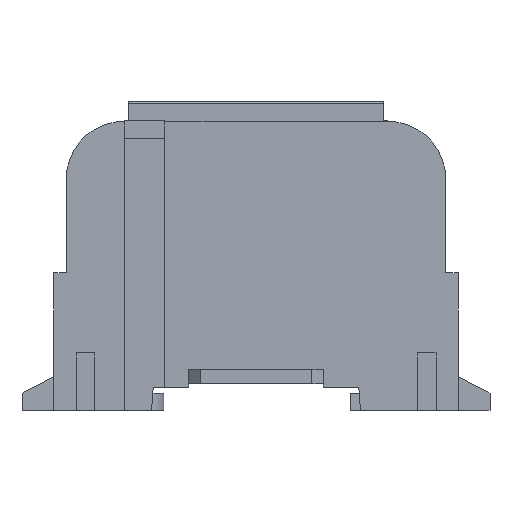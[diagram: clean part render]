
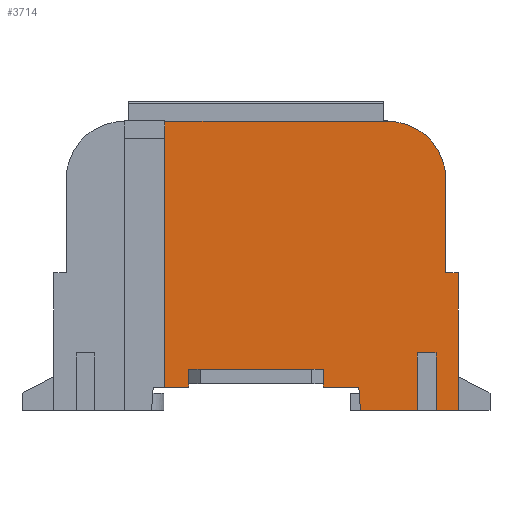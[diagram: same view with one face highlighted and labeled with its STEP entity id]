
A CAD part, front view. The second image highlights one B-rep face of the part: STEP entity #3714.
In plain terms, the highlighted planar face has unit normal (0, -1, 0).
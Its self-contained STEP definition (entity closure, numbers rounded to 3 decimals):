
#69=LINE('',#5300,#527);
#70=LINE('',#5302,#528);
#72=LINE('',#5306,#530);
#73=LINE('',#5308,#531);
#93=LINE('',#5351,#551);
#97=LINE('',#5363,#555);
#101=LINE('',#5370,#559);
#106=LINE('',#5379,#564);
#113=LINE('',#5393,#571);
#154=LINE('',#5493,#612);
#156=LINE('',#5496,#614);
#161=LINE('',#5506,#619);
#163=LINE('',#5515,#621);
#164=LINE('',#5517,#622);
#165=LINE('',#5519,#623);
#166=LINE('',#5521,#624);
#167=LINE('',#5525,#625);
#168=LINE('',#5526,#626);
#527=VECTOR('',#4254,1000.);
#528=VECTOR('',#4257,1000.);
#530=VECTOR('',#4261,1000.);
#531=VECTOR('',#4264,1000.);
#551=VECTOR('',#4294,1000.);
#555=VECTOR('',#4304,1000.);
#559=VECTOR('',#4310,1000.);
#564=VECTOR('',#4319,1000.);
#571=VECTOR('',#4328,1000.);
#612=VECTOR('',#4423,1000.);
#614=VECTOR('',#4427,1000.);
#619=VECTOR('',#4436,1000.);
#621=VECTOR('',#4446,1000.);
#622=VECTOR('',#4447,1000.);
#623=VECTOR('',#4448,1000.);
#624=VECTOR('',#4449,1000.);
#625=VECTOR('',#4452,1000.);
#626=VECTOR('',#4453,1000.);
#990=PLANE('',#3957);
#1366=ORIENTED_EDGE('',*,*,#2236,.T.);
#1367=ORIENTED_EDGE('',*,*,#2334,.T.);
#1368=ORIENTED_EDGE('',*,*,#2338,.F.);
#1369=ORIENTED_EDGE('',*,*,#2339,.F.);
#1370=ORIENTED_EDGE('',*,*,#2340,.T.);
#1371=ORIENTED_EDGE('',*,*,#2341,.T.);
#1372=ORIENTED_EDGE('',*,*,#2342,.T.);
#1373=ORIENTED_EDGE('',*,*,#2343,.F.);
#1374=ORIENTED_EDGE('',*,*,#2256,.T.);
#1375=ORIENTED_EDGE('',*,*,#2261,.F.);
#1376=ORIENTED_EDGE('',*,*,#2265,.F.);
#1377=ORIENTED_EDGE('',*,*,#2235,.F.);
#1378=ORIENTED_EDGE('',*,*,#2233,.F.);
#1379=ORIENTED_EDGE('',*,*,#2232,.F.);
#1380=ORIENTED_EDGE('',*,*,#2270,.F.);
#1381=ORIENTED_EDGE('',*,*,#2277,.F.);
#1382=ORIENTED_EDGE('',*,*,#2327,.F.);
#1383=ORIENTED_EDGE('',*,*,#2344,.F.);
#1384=ORIENTED_EDGE('',*,*,#2329,.T.);
#2232=EDGE_CURVE('',#2725,#2751,#69,.T.);
#2233=EDGE_CURVE('',#2751,#2752,#70,.T.);
#2235=EDGE_CURVE('',#2752,#2726,#72,.T.);
#2236=EDGE_CURVE('',#2753,#2754,#73,.T.);
#2256=EDGE_CURVE('',#2771,#2770,#93,.T.);
#2261=EDGE_CURVE('',#2775,#2770,#97,.T.);
#2265=EDGE_CURVE('',#2726,#2775,#101,.T.);
#2270=EDGE_CURVE('',#2780,#2725,#106,.T.);
#2277=EDGE_CURVE('',#2785,#2780,#113,.T.);
#2327=EDGE_CURVE('',#2817,#2785,#154,.T.);
#2329=EDGE_CURVE('',#2818,#2753,#156,.T.);
#2334=EDGE_CURVE('',#2754,#2821,#161,.T.);
#2338=EDGE_CURVE('',#2824,#2821,#163,.T.);
#2339=EDGE_CURVE('',#2825,#2824,#164,.T.);
#2340=EDGE_CURVE('',#2825,#2826,#165,.T.);
#2341=EDGE_CURVE('',#2826,#2827,#166,.T.);
#2342=EDGE_CURVE('',#2827,#2828,#3083,.F.);
#2343=EDGE_CURVE('',#2771,#2828,#167,.T.);
#2344=EDGE_CURVE('',#2818,#2817,#168,.T.);
#2725=VERTEX_POINT('',#5219);
#2726=VERTEX_POINT('',#5221);
#2751=VERTEX_POINT('',#5299);
#2752=VERTEX_POINT('',#5303);
#2753=VERTEX_POINT('',#5309);
#2754=VERTEX_POINT('',#5310);
#2770=VERTEX_POINT('',#5350);
#2771=VERTEX_POINT('',#5352);
#2775=VERTEX_POINT('',#5362);
#2780=VERTEX_POINT('',#5380);
#2785=VERTEX_POINT('',#5392);
#2817=VERTEX_POINT('',#5492);
#2818=VERTEX_POINT('',#5497);
#2821=VERTEX_POINT('',#5507);
#2824=VERTEX_POINT('',#5516);
#2825=VERTEX_POINT('',#5518);
#2826=VERTEX_POINT('',#5520);
#2827=VERTEX_POINT('',#5522);
#2828=VERTEX_POINT('',#5524);
#3083=CIRCLE('',#3958,10.);
#3189=EDGE_LOOP('',(#1366,#1367,#1368,#1369,#1370,#1371,#1372,#1373,#1374,
#1375,#1376,#1377,#1378,#1379,#1380,#1381,#1382,#1383,#1384));
#3441=FACE_BOUND('',#3189,.T.);
#3714=ADVANCED_FACE('',(#3441),#990,.F.);
#3957=AXIS2_PLACEMENT_3D('',#5514,#4444,#4445);
#3958=AXIS2_PLACEMENT_3D('',#5523,#4450,#4451);
#4254=DIRECTION('',(0.,0.,1.));
#4257=DIRECTION('',(-1.,0.,0.));
#4261=DIRECTION('',(0.,0.,-1.));
#4264=DIRECTION('',(1.,0.,0.));
#4294=DIRECTION('',(0.,0.,-1.));
#4304=DIRECTION('',(-1.,0.,0.));
#4310=DIRECTION('',(0.,0.,-1.));
#4319=DIRECTION('',(0.,0.,1.));
#4328=DIRECTION('',(-1.,0.,0.));
#4423=DIRECTION('',(-0.075,0.,0.997));
#4427=DIRECTION('',(0.,0.,1.));
#4436=DIRECTION('',(0.,0.,-1.));
#4444=DIRECTION('',(0.,1.,0.));
#4445=DIRECTION('',(0.,0.,1.));
#4446=DIRECTION('',(-1.,0.,0.));
#4447=DIRECTION('',(0.,0.,-1.));
#4448=DIRECTION('',(-1.,0.,0.));
#4449=DIRECTION('',(0.,0.,1.));
#4450=DIRECTION('',(0.,1.,0.));
#4451=DIRECTION('',(0.,0.,1.));
#4452=DIRECTION('',(1.,0.,0.));
#4453=DIRECTION('',(-1.,0.,0.));
#5219=CARTESIAN_POINT('',(11.625,-2.9,-20.311));
#5221=CARTESIAN_POINT('',(-11.625,-2.9,-20.311));
#5299=CARTESIAN_POINT('',(11.625,-2.9,-17.811));
#5300=CARTESIAN_POINT('',(11.625,-2.9,-20.311));
#5302=CARTESIAN_POINT('',(-11.625,-2.9,-17.811));
#5303=CARTESIAN_POINT('',(-11.625,-2.9,-17.811));
#5306=CARTESIAN_POINT('',(-11.625,-2.9,-17.811));
#5308=CARTESIAN_POINT('',(31.,-2.9,-15.));
#5309=CARTESIAN_POINT('',(27.8,-2.9,-15.));
#5310=CARTESIAN_POINT('',(31.,-2.9,-15.));
#5350=CARTESIAN_POINT('',(-15.7,-2.9,-20.911));
#5351=CARTESIAN_POINT('',(-15.7,-2.9,24.9));
#5352=CARTESIAN_POINT('',(-15.7,-2.9,24.9));
#5362=CARTESIAN_POINT('',(-11.625,-2.9,-20.911));
#5363=CARTESIAN_POINT('',(-17.7,-2.9,-20.911));
#5370=CARTESIAN_POINT('',(-11.625,-2.9,-20.911));
#5379=CARTESIAN_POINT('',(11.625,-2.9,-20.911));
#5380=CARTESIAN_POINT('',(11.625,-2.9,-20.911));
#5392=CARTESIAN_POINT('',(17.7,-2.9,-20.911));
#5393=CARTESIAN_POINT('',(11.625,-2.9,-20.911));
#5492=CARTESIAN_POINT('',(18.,-2.9,-24.9));
#5493=CARTESIAN_POINT('',(18.,-2.9,-24.9));
#5496=CARTESIAN_POINT('',(27.8,-2.9,-24.9));
#5497=CARTESIAN_POINT('',(27.8,-2.9,-24.9));
#5506=CARTESIAN_POINT('',(31.,-2.9,-24.9));
#5507=CARTESIAN_POINT('',(31.,-2.9,-24.9));
#5514=CARTESIAN_POINT('',(0.,-2.9,0.));
#5515=CARTESIAN_POINT('',(59.896,-2.9,-24.9));
#5516=CARTESIAN_POINT('',(34.8,-2.9,-24.9));
#5517=CARTESIAN_POINT('',(34.8,-2.9,48.714));
#5518=CARTESIAN_POINT('',(34.8,-2.9,-1.2));
#5519=CARTESIAN_POINT('',(34.8,-2.9,-1.2));
#5520=CARTESIAN_POINT('',(32.7,-2.9,-1.2));
#5521=CARTESIAN_POINT('',(32.7,-2.9,24.9));
#5522=CARTESIAN_POINT('',(32.7,-2.9,14.9));
#5523=CARTESIAN_POINT('',(22.7,-2.9,14.9));
#5524=CARTESIAN_POINT('',(22.7,-2.9,24.9));
#5525=CARTESIAN_POINT('',(-59.896,-2.9,24.9));
#5526=CARTESIAN_POINT('',(59.896,-2.9,-24.9));
